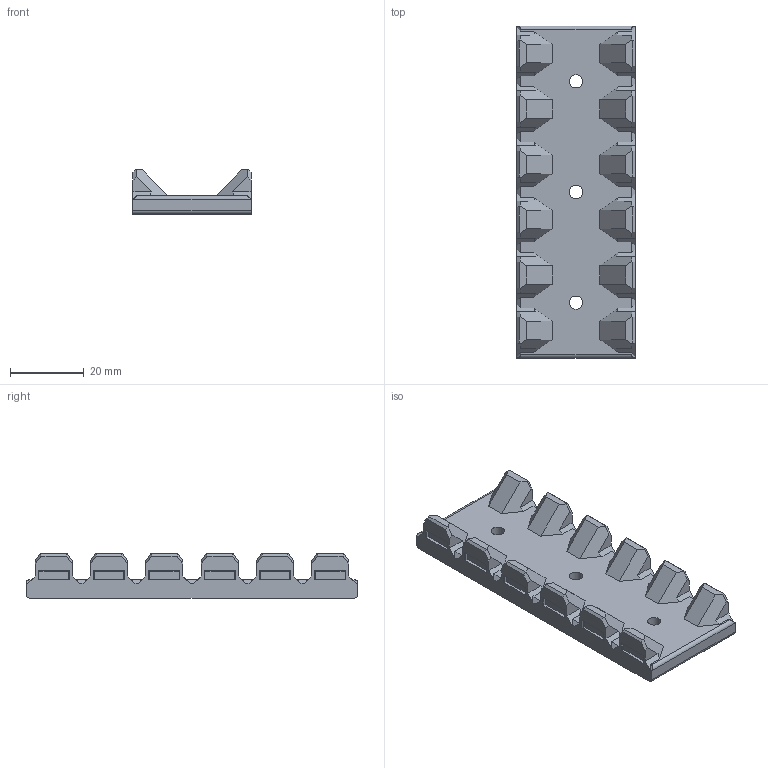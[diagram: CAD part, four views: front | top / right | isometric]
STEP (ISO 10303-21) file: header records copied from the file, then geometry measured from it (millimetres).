
FILE_DESCRIPTION(/* description */ (''),/* implementation_level */ '2;1');
FILE_NAME(/* name */ 'Stright_Cable_Guide_Extended (90mm).step',/* time_stamp */ '2024-10-20T22:55:09+02:00',/* author */ (''),/* organization */ (''),/* preprocessor_version */ 'ST-DEVELOPER v20',/* originating_system */ 'Autodesk Translation Framework v13.20.0.188',/* authorisation */ '');
FILE_SCHEMA (('AUTOMOTIVE_DESIGN { 1 0 10303 214 3 1 1 }'));
Length unit declared in the file: millimetre
Products named in the file (1): Stright_Cable_Guide
Bounding box: 32 x 90 x 12 mm (x, y, z)
Volume: 14289.4 mm3; surface area: 9359.8 mm2
Topology: 1 solids, 1 shells, 408 faces, 1049 edges, 661 vertices
Faces by surface type: plane 284, cylinder 61, sphere 36, bspline 12, cone 9, torus 6
Full cylindrical faces by diameter (mm): 3.6 x3
Entity records: 12420 total; most frequent: CARTESIAN_POINT 2455, ORIENTED_EDGE 2098, DIRECTION 1974, EDGE_CURVE 1049, LINE 846, VECTOR 846, VERTEX_POINT 661, AXIS2_PLACEMENT_3D 564
